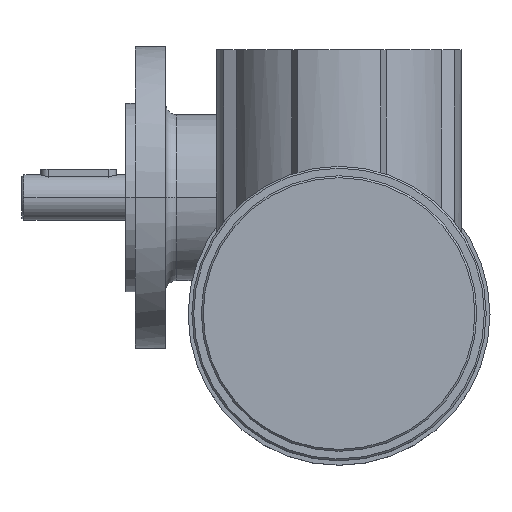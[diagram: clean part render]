
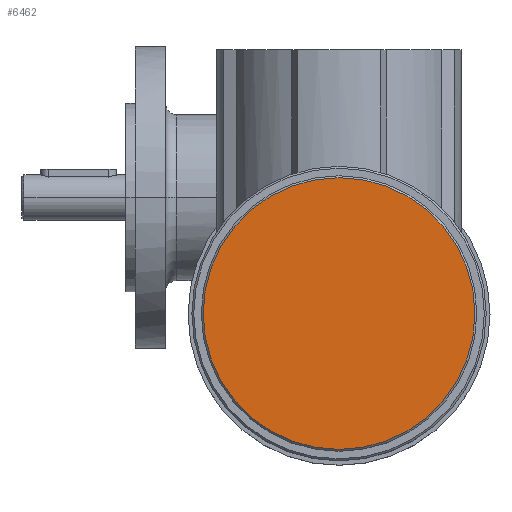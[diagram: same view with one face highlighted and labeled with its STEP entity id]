
A CAD part, top view. The second image highlights one B-rep face of the part: STEP entity #6462.
In plain terms, the highlighted planar face has unit normal (0, 0, 1).
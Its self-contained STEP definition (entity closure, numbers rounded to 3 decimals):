
#554 = CIRCLE ( 'NONE', #2905, 36. ) ;
#1843 = ORIENTED_EDGE ( 'NONE', *, *, #6299, .T. ) ;
#1916 = PLANE ( 'NONE',  #13897 ) ;
#2905 = AXIS2_PLACEMENT_3D ( 'NONE', #10127, #6048, #15790 ) ;
#3044 = CARTESIAN_POINT ( 'NONE',  ( -49.116, -9.414, 162. ) ) ;
#3145 = CARTESIAN_POINT ( 'NONE',  ( -13.116, -9.414, 162. ) ) ;
#3410 = ORIENTED_EDGE ( 'NONE', *, *, #4121, .T. ) ;
#3993 = CIRCLE ( 'NONE', #4295, 36. ) ;
#4121 = EDGE_CURVE ( 'NONE', #8643, #13370, #3993, .T. ) ;
#4295 = AXIS2_PLACEMENT_3D ( 'NONE', #4361, #6006, #14080 ) ;
#4361 = CARTESIAN_POINT ( 'NONE',  ( -49.116, -9.414, 162. ) ) ;
#6006 = DIRECTION ( 'NONE',  ( 0., 0., 1. ) ) ;
#6048 = DIRECTION ( 'NONE',  ( 0., 0., 1. ) ) ;
#6299 = EDGE_CURVE ( 'NONE', #13370, #8643, #554, .T. ) ;
#6462 = ADVANCED_FACE ( 'NONE', ( #11510 ), #1916, .T. ) ;
#7596 = DIRECTION ( 'NONE',  ( -1., 0., 0. ) ) ;
#8643 = VERTEX_POINT ( 'NONE', #15890 ) ;
#10127 = CARTESIAN_POINT ( 'NONE',  ( -49.116, -9.414, 162. ) ) ;
#11510 = FACE_OUTER_BOUND ( 'NONE', #12400, .T. ) ;
#12400 = EDGE_LOOP ( 'NONE', ( #1843, #3410 ) ) ;
#13288 = DIRECTION ( 'NONE',  ( 0., 0., 1. ) ) ;
#13370 = VERTEX_POINT ( 'NONE', #3145 ) ;
#13897 = AXIS2_PLACEMENT_3D ( 'NONE', #3044, #13288, #7596 ) ;
#14080 = DIRECTION ( 'NONE',  ( -1., 0., 0. ) ) ;
#15790 = DIRECTION ( 'NONE',  ( -1., 0., 0. ) ) ;
#15890 = CARTESIAN_POINT ( 'NONE',  ( -85.116, -9.414, 162. ) ) ;
